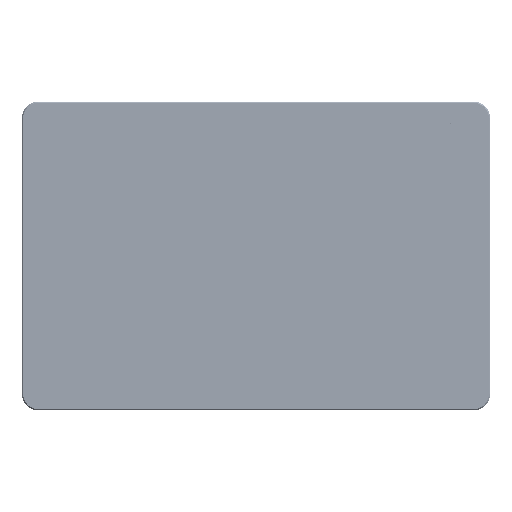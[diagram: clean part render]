
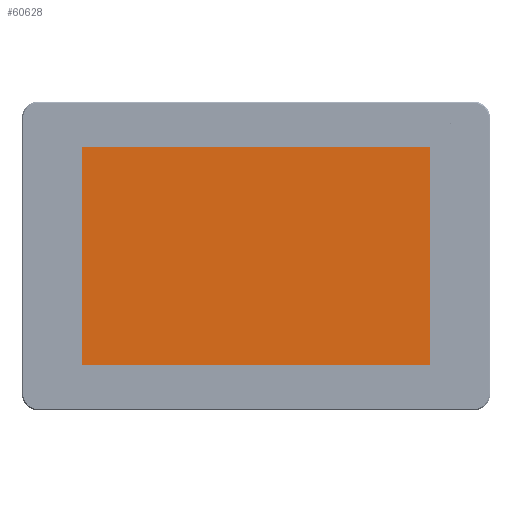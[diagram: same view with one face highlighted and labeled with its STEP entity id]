
A CAD part, top view. The second image highlights one B-rep face of the part: STEP entity #60628.
In plain terms, the highlighted planar face has unit normal (0, 0, 1).
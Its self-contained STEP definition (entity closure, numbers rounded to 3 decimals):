
#26287=LINE('',#441902,#42081);
#26291=LINE('',#441911,#42085);
#26294=LINE('',#441917,#42088);
#26297=LINE('',#441923,#42091);
#42081=VECTOR('',#277948,1.);
#42085=VECTOR('',#277954,1.);
#42088=VECTOR('',#277959,1.);
#42091=VECTOR('',#277964,1.);
#60628=ADVANCED_FACE('',(#78007),#66249,.T.);
#66249=PLANE('',#227731);
#78007=FACE_OUTER_BOUND('',#91369,.T.);
#91369=EDGE_LOOP('',(#149849,#149850,#149851,#149852));
#149849=ORIENTED_EDGE('',*,*,#201608,.T.);
#149850=ORIENTED_EDGE('',*,*,#201618,.T.);
#149851=ORIENTED_EDGE('',*,*,#201615,.T.);
#149852=ORIENTED_EDGE('',*,*,#201612,.T.);
#171561=VERTEX_POINT('',#441903);
#171562=VERTEX_POINT('',#441904);
#171565=VERTEX_POINT('',#441912);
#171567=VERTEX_POINT('',#441918);
#201608=EDGE_CURVE('',#171561,#171562,#26287,.T.);
#201612=EDGE_CURVE('',#171565,#171561,#26291,.T.);
#201615=EDGE_CURVE('',#171567,#171565,#26294,.T.);
#201618=EDGE_CURVE('',#171562,#171567,#26297,.T.);
#227731=AXIS2_PLACEMENT_3D('',#441927,#277970,#277971);
#277948=DIRECTION('',(0.,-1.,0.));
#277954=DIRECTION('',(-1.,0.,0.));
#277959=DIRECTION('',(0.,1.,0.));
#277964=DIRECTION('',(1.,0.,0.));
#277970=DIRECTION('',(0.,0.,1.));
#277971=DIRECTION('',(1.,0.,0.));
#441902=CARTESIAN_POINT('',(-125.944,83.898,330.25));
#441903=CARTESIAN_POINT('',(-125.944,83.898,330.25));
#441904=CARTESIAN_POINT('',(-125.944,-52.702,330.25));
#441911=CARTESIAN_POINT('',(-125.944,83.898,330.25));
#441912=CARTESIAN_POINT('',(92.056,83.898,330.25));
#441917=CARTESIAN_POINT('',(92.056,83.898,330.25));
#441918=CARTESIAN_POINT('',(92.056,-52.702,330.25));
#441923=CARTESIAN_POINT('',(-125.944,-52.702,330.25));
#441927=CARTESIAN_POINT('',(-884.291,-396.91,330.25));
